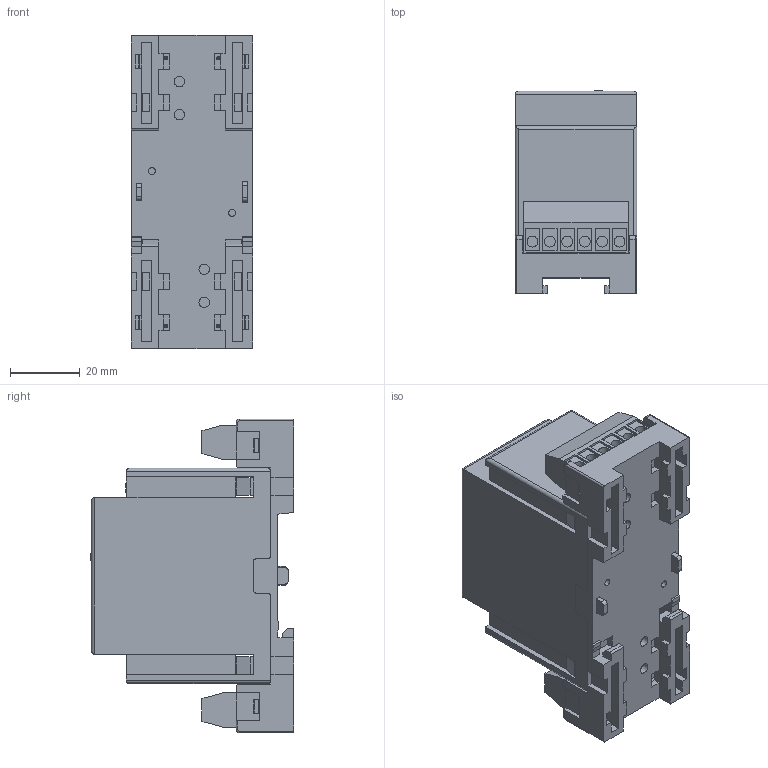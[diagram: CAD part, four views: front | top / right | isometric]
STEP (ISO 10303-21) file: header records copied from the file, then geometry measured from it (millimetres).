
FILE_DESCRIPTION (( 'STEP AP214' ), '1' );
FILE_NAME ('1166 1930_MSR_3D.STEP', '2013-11-20T06:23:12', ( '' ), ( '' ), 'SwSTEP 2.0', 'SolidWorks 2013', '' );
FILE_SCHEMA (( 'AUTOMOTIVE_DESIGN' ));
Length unit declared in the file: millimetre
Products named in the file (7): Typenschild MSR220VA_T222135; 31003106; V2_Frontplatte; V2_Oberteil; V2_Leiterplatte; V2_Unterteil; 1166 1930_MSR_3D
Assembly tree (7 placements, depth 2):
  1166 1930_MSR_3D
    V2_Unterteil
    V2_Leiterplatte
    V2_Oberteil
    V2_Frontplatte
    31003106  x2
    Typenschild MSR220VA_T222135
Bounding box: 35.01 x 58.29 x 90 mm (x, y, z)
Volume: 40265.6 mm3; surface area: 48995.7 mm2
Topology: 235 solids, 235 shells, 3404 faces, 8659 edges, 5744 vertices
Faces by surface type: plane 2880, bspline 388, cylinder 120, cone 12, torus 4
Full cylindrical faces by diameter (mm): 1 x12, 1.5 x4, 1.8 x4, 2 x2, 3 x4, 3.1 x12, 3.5 x4, 4 x12, 4.5 x2
Entity records: 109572 total; most frequent: CARTESIAN_POINT 29089, ORIENTED_EDGE 16730, DIRECTION 13628, EDGE_CURVE 8365, LINE 7360, VECTOR 7360, VERTEX_POINT 5582, EDGE_LOOP 3521
